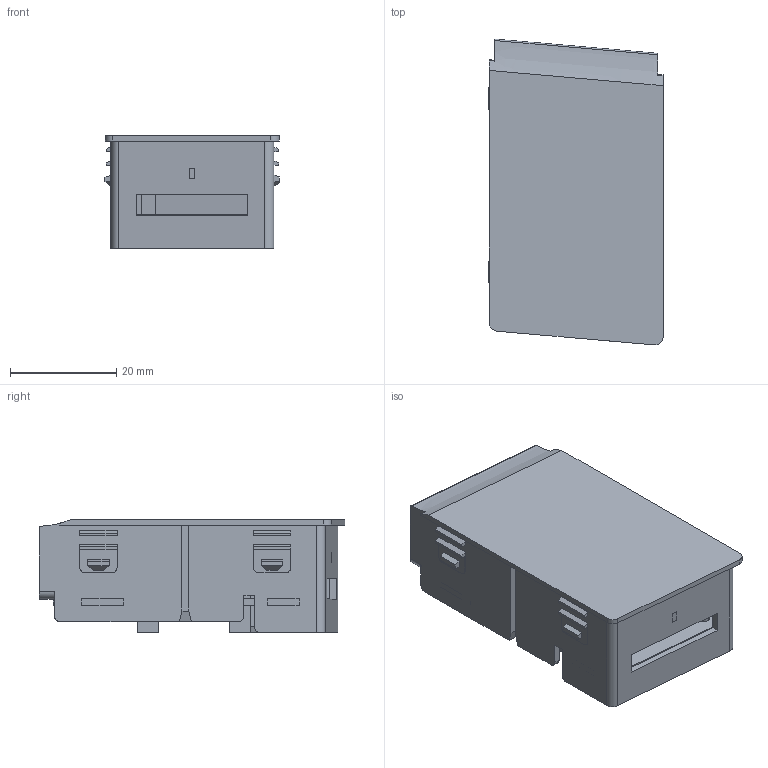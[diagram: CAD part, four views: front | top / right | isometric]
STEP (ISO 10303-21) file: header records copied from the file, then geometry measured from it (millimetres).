
FILE_DESCRIPTION(('SolidDesigner STEP Export'),'2;1');
FILE_NAME('单LED-RJ45.stp','2025-02-27T13:59:47',(''),(''),'Creo Elements/Direct Modeling STEP processor for AP214 (Solid Model)','Creo Elements/Direct Modeling 20.1 10-Mar-2018 (C) Parametric Technology GmbH','');
FILE_SCHEMA(('AUTOMOTIVE_DESIGN { 1 0 10303 214 1 1 1 1 }'));
Length unit declared in the file: millimetre
Products named in the file (6): HOUSING RJ45-1; LED light-1; CPU-RJ45-1-ASSEMBLY.1; KZ-PCB.1.1; p1; CPU-RJ45-2-ASSEMBLY-ALL
Assembly tree (5 placements, depth 3):
  CPU-RJ45-2-ASSEMBLY-ALL
    p1
    KZ-PCB.1.1
    CPU-RJ45-1-ASSEMBLY.1
      LED light-1
      HOUSING RJ45-1
Bounding box: 32.8 x 57.64 x 21.2 mm (x, y, z)
Volume: 10693.3 mm3; surface area: 15271 mm2
Topology: 4 solids, 4 shells, 596 faces, 1614 edges, 1077 vertices
Faces by surface type: plane 499, cylinder 69, extrusion 20, cone 8
Entity records: 19173 total; most frequent: CARTESIAN_POINT 4074, ORIENTED_EDGE 3228, DIRECTION 2811, EDGE_CURVE 1614, VECTOR 1419, LINE 1399, VERTEX_POINT 1077, AXIS2_PLACEMENT_3D 696
